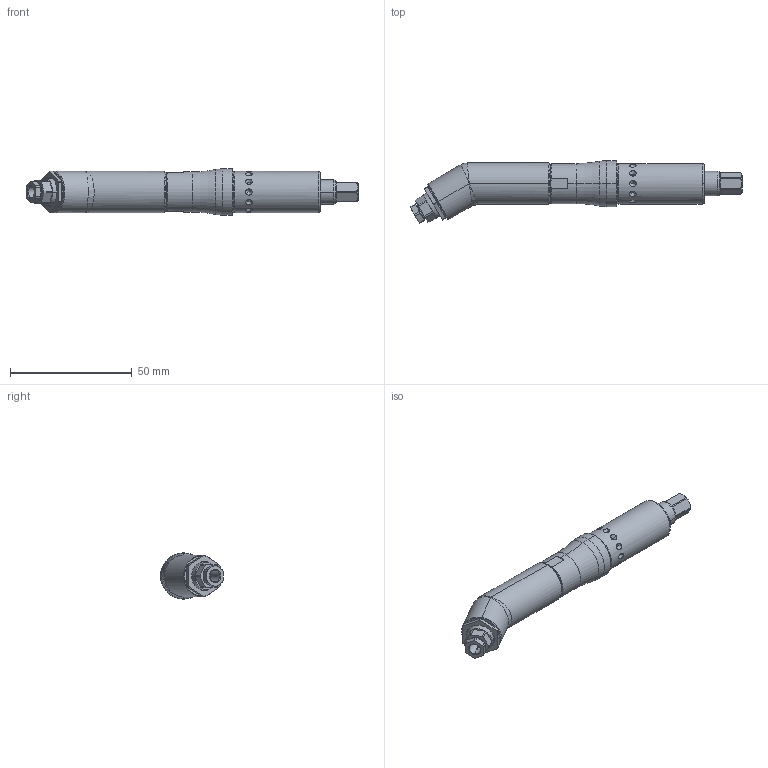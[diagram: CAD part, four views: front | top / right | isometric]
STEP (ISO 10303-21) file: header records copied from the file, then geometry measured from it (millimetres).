
FILE_DESCRIPTION((''),'2;1');
FILE_NAME('30_CPT_QR','2008-10-27T',('sdanet'),(''),'PRO/ENGINEER BY PARAMETRIC TECHNOLOGY CORPORATION, 2008250','PRO/ENGINEER BY PARAMETRIC TECHNOLOGY CORPORATION, 2008250','');
FILE_SCHEMA(('CONFIG_CONTROL_DESIGN'));
Length unit declared in the file: millimetre
Products named in the file (1): 30_CPT_QR
Bounding box: 136.48 x 25.87 x 19 mm (x, y, z)
Volume: 20192.6 mm3; surface area: 19185.6 mm2
Topology: 3 solids, 11 shells, 330 faces, 829 edges, 498 vertices
Faces by surface type: cylinder 105, plane 87, cone 82, torus 28, sphere 24, bspline 4
Entity records: 10443 total; most frequent: CARTESIAN_POINT 2498, DIRECTION 1777, ORIENTED_EDGE 1564, EDGE_CURVE 797, AXIS2_PLACEMENT_3D 728, VERTEX_POINT 498, CIRCLE 401, EDGE_LOOP 372
